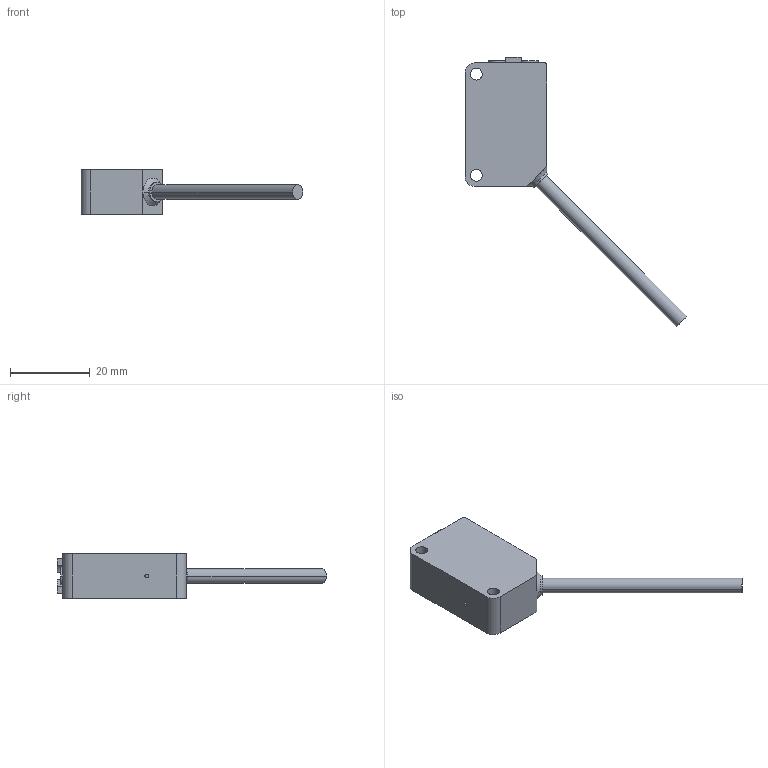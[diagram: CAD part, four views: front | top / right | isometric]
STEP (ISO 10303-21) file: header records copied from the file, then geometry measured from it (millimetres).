
FILE_DESCRIPTION (( 'STEP AP203' ), '1' );
FILE_NAME ('CPG-540_3D.STEP', '2022-05-16T03:32:45', ( '' ), ( '' ), 'SwSTEP 2.0', 'SolidWorks 2020', '' );
FILE_SCHEMA (( 'CONFIG_CONTROL_DESIGN' ));
Length unit declared in the file: millimetre
Products named in the file (1): CPG-540_3D
Bounding box: 55.72 x 67.62 x 11.2 mm (x, y, z)
Volume: 7413.5 mm3; surface area: 3181.6 mm2
Topology: 1 solids, 1 shells, 71 faces, 178 edges, 118 vertices
Faces by surface type: plane 48, cylinder 21, cone 2
Entity records: 2205 total; most frequent: CARTESIAN_POINT 368, DIRECTION 366, ORIENTED_EDGE 356, EDGE_CURVE 178, VECTOR 134, LINE 134, VERTEX_POINT 118, AXIS2_PLACEMENT_3D 116
